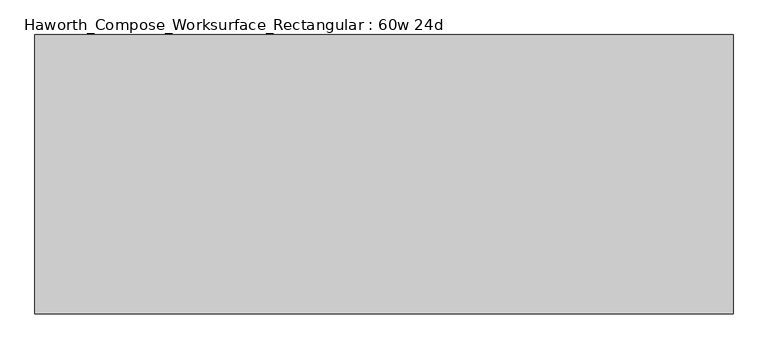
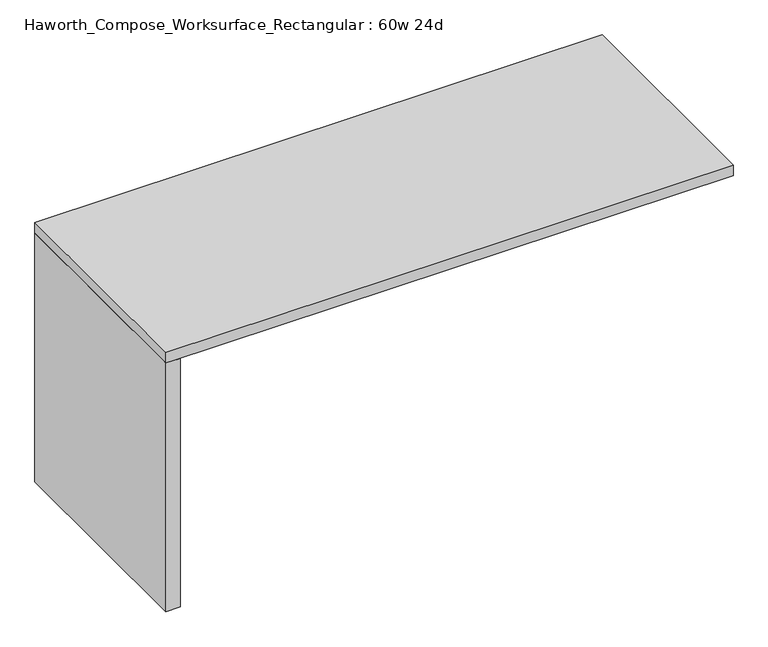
"""IFC4 building model written with IfcOpenShell, lengths in millimetres: furniture geometry, Haworth_Compose_Worksurface_Rectangular : 60w 24d."""

from ifc_helpers import new_model, si_unit, frame, origin, origin_with_axes, place, context, project, spatial, polyline, outline, extrude, source, transform, mapped, element, save


def haworth_compose_worksurface_rectangular_60w_24d_50b8101e(model_context):
    return source(origin(), model_context, "Body", "SweptSolid", [
        extrude(outline(polyline([(-723.9, -304.8), (-762.0, -304.8), (-762.0, 304.8), (-723.9, 304.8), (-723.9, -304.8)])), origin_with_axes(), (0.0, 0.0, 1.0), 706.4375),
        extrude(outline(polyline([(762.0, -304.8), (-762.0, -304.8), (-762.0, 304.8), (762.0, 304.8), (762.0, -304.8)])), frame((0.0, 0.0, 706.4375), z_axis=(0.0, 0.0, 1.0), x_axis=(1.0, 0.0, 0.0)), (0.0, 0.0, 1.0), 30.1625),
    ])


if __name__ == "__main__":
    model = new_model("IFC4")
    model_context = context("Model", 3, world=origin())
    ifc_project = project(units=[si_unit("LENGTHUNIT", "METRE", prefix="MILLI")], contexts=[model_context])
    site = spatial("IfcSite", under=ifc_project)
    building = spatial("IfcBuilding", under=site)
    placement = place(None, origin())
    haworth_compose_worksurface_rectangular_60w_24d_shape = haworth_compose_worksurface_rectangular_60w_24d_50b8101e(model_context)
    element("IfcFurniture", 1, ObjectType="Haworth_Compose_Worksurface_Rectangular : 60w 24d", at=placement, inside=building, context=model_context, shape_type="MappedRepresentation", body=[
        mapped(haworth_compose_worksurface_rectangular_60w_24d_shape, transform((0.0, 0.0, 0.0), x_axis=(1.0, 0.0, 0.0), y_axis=(0.0, 1.0, 0.0), z_axis=(0.0, 0.0, 1.0))),
    ])
    save(model, "model.ifc")
